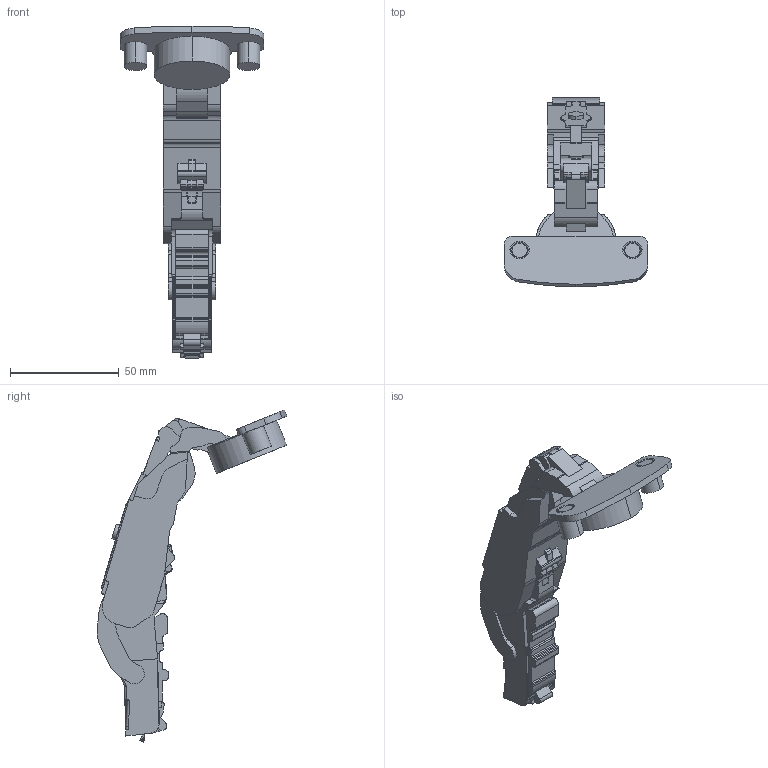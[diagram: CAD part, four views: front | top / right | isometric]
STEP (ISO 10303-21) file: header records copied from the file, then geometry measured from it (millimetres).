
FILE_DESCRIPTION (( 'STEP AP203' ), '1' );
FILE_NAME ('C81A807MFAB DTC 3D OPEN.STEP', '2024-07-30T02:02:26', ( '微软用户' ), ( '微软中国' ), 'SwSTEP 2.0', 'SolidWorks 2021', '' );
FILE_SCHEMA (( 'CONFIG_CONTROL_DESIGN' ));
Length unit declared in the file: millimetre
Products named in the file (1): C81A807MFAB DTC 3D OPEN
Bounding box: 66.2 x 87.36 x 152.94 mm (x, y, z)
Volume: 95096.3 mm3; surface area: 22779.7 mm2
Topology: 1 solids, 10 shells, 872 faces, 2380 edges, 1515 vertices
Faces by surface type: plane 348, cylinder 334, torus 116, bspline 68, cone 4, sphere 2
Entity records: 30491 total; most frequent: CARTESIAN_POINT 8571, ORIENTED_EDGE 4736, DIRECTION 4522, EDGE_CURVE 2368, AXIS2_PLACEMENT_3D 1629, VERTEX_POINT 1515, LINE 1264, VECTOR 1264
